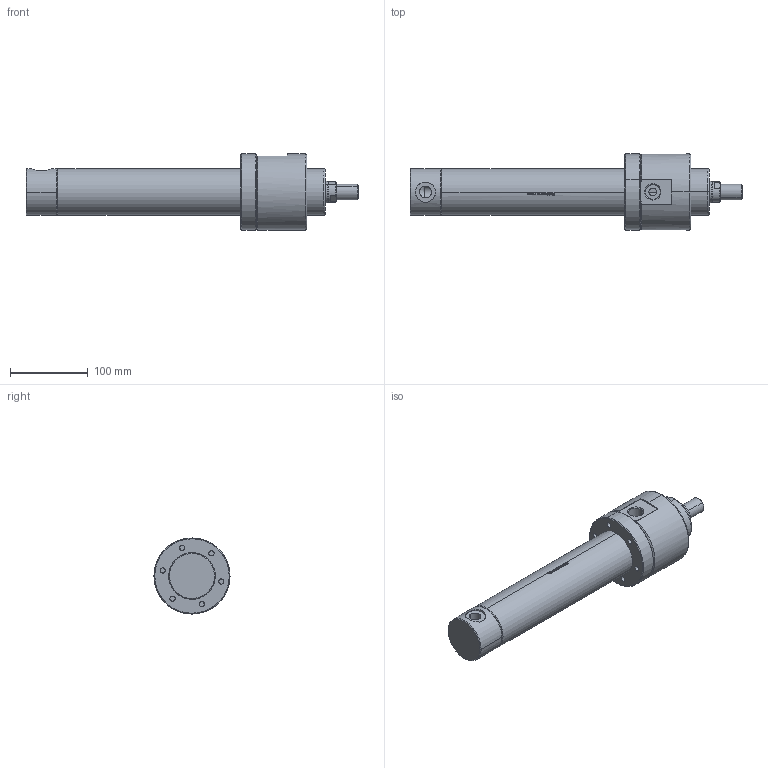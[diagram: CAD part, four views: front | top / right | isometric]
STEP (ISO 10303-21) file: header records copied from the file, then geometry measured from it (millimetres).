
FILE_DESCRIPTION (( 'STEP AP214' ), '1' );
FILE_NAME ('KHCC_50_28_200_WEB.STEP', '2020-12-15T11:41:00', ( '' ), ( '' ), 'SwSTEP 2.0', 'SolidWorks 2021', '' );
FILE_SCHEMA (( 'AUTOMOTIVE_DESIGN' ));
Length unit declared in the file: millimetre
Products named in the file (9): 50_28_烰_KAPAK; 50_28_gerdirme_flans; 28_K_MIL_WEB; 50_H.BORU_WEB; K32-28X38X6; TYAK_50_60; KHCC_50_28_200_WEB; K06-28X38_2X5_3X7
Assembly tree (8 placements, depth 3):
  KHCC_50_28_200_WEB
    50_28_烰_KAPAK
      50_28_烰_KAPAK
      K06-28X38_2X5_3X7
      K32-28X38X6
      50_28_gerdirme_flans
    50_H.BORU_WEB
    28_K_MIL_WEB
    TYAK_50_60
Bounding box: 428 x 98 x 98 mm (x, y, z)
Volume: 919165.7 mm3; surface area: 205768.1 mm2
Topology: 7 solids, 7 shells, 468 faces, 1110 edges, 690 vertices
Faces by surface type: bspline 165, plane 120, cylinder 113, cone 66, torus 4
Entity records: 20644 total; most frequent: CARTESIAN_POINT 8588, ORIENTED_EDGE 2220, DIRECTION 1674, EDGE_CURVE 1110, VERTEX_POINT 690, AXIS2_PLACEMENT_3D 621, EDGE_LOOP 540, FACE_OUTER_BOUND 468
